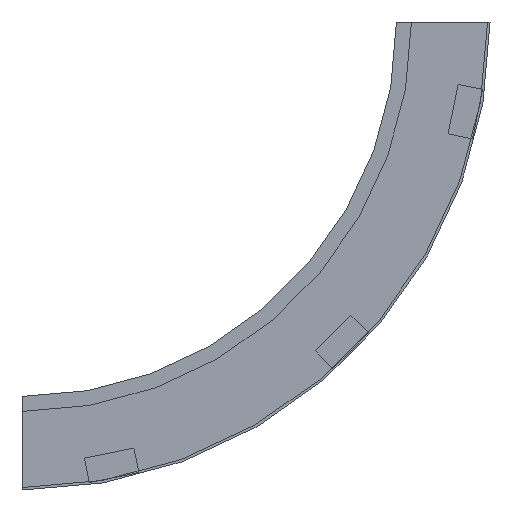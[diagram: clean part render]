
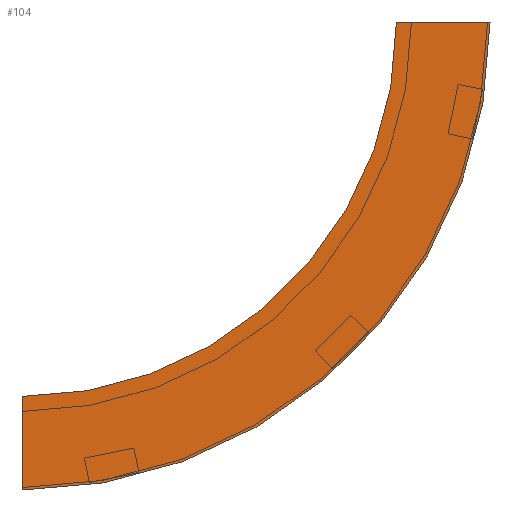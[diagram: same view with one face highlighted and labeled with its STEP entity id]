
A CAD part, left-side view. The second image highlights one B-rep face of the part: STEP entity #104.
In plain terms, the highlighted planar face has unit normal (-1, 0, 0) as drawn and (1, 0, 0) by its records, which use the part's own axes.
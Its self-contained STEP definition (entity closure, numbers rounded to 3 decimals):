
#8 = DIRECTION ( 'NONE',  ( 1., 0., 0. ) ) ;
#11 = VERTEX_POINT ( 'NONE', #85 ) ;
#12 = DIRECTION ( 'NONE',  ( 1., 0., 0. ) ) ;
#54 = EDGE_CURVE ( 'NONE', #139, #213, #129, .T. ) ;
#62 = DIRECTION ( 'NONE',  ( 0., 1., 0. ) ) ;
#74 = EDGE_LOOP ( 'NONE', ( #244, #382, #135, #476 ) ) ;
#85 = CARTESIAN_POINT ( 'NONE',  ( 0., -75., 0. ) ) ;
#88 = DIRECTION ( 'NONE',  ( 0., 0., 1. ) ) ;
#102 = CARTESIAN_POINT ( 'NONE',  ( 0., 300., -375. ) ) ;
#104 = ADVANCED_FACE ( 'NONE', ( #283 ), #189, .F. ) ;
#129 = LINE ( 'NONE', #533, #373 ) ;
#135 = ORIENTED_EDGE ( 'NONE', *, *, #347, .T. ) ;
#139 = VERTEX_POINT ( 'NONE', #102 ) ;
#141 = CARTESIAN_POINT ( 'NONE',  ( 0., 300., -300. ) ) ;
#146 = CIRCLE ( 'NONE', #470, 300. ) ;
#159 = CARTESIAN_POINT ( 'NONE',  ( 0., 0., 0. ) ) ;
#168 = EDGE_CURVE ( 'NONE', #345, #213, #146, .T. ) ;
#189 = PLANE ( 'NONE',  #444 ) ;
#213 = VERTEX_POINT ( 'NONE', #141 ) ;
#244 = ORIENTED_EDGE ( 'NONE', *, *, #168, .F. ) ;
#248 = CARTESIAN_POINT ( 'NONE',  ( 0., 300., 0. ) ) ;
#283 = FACE_OUTER_BOUND ( 'NONE', #74, .T. ) ;
#292 = LINE ( 'NONE', #466, #570 ) ;
#320 = DIRECTION ( 'NONE',  ( 0., 0., 1. ) ) ;
#345 = VERTEX_POINT ( 'NONE', #159 ) ;
#347 = EDGE_CURVE ( 'NONE', #11, #139, #572, .T. ) ;
#371 = DIRECTION ( 'NONE',  ( 0., -1., 0. ) ) ;
#373 = VECTOR ( 'NONE', #88, 1000. ) ;
#376 = EDGE_CURVE ( 'NONE', #11, #345, #292, .T. ) ;
#381 = DIRECTION ( 'NONE',  ( 0., -1., 0. ) ) ;
#382 = ORIENTED_EDGE ( 'NONE', *, *, #376, .F. ) ;
#411 = CARTESIAN_POINT ( 'NONE',  ( 0., 300., 0. ) ) ;
#444 = AXIS2_PLACEMENT_3D ( 'NONE', #539, #455, #320 ) ;
#455 = DIRECTION ( 'NONE',  ( -1., 0., 0. ) ) ;
#466 = CARTESIAN_POINT ( 'NONE',  ( 0., -75., 0. ) ) ;
#470 = AXIS2_PLACEMENT_3D ( 'NONE', #248, #8, #371 ) ;
#476 = ORIENTED_EDGE ( 'NONE', *, *, #54, .T. ) ;
#488 = AXIS2_PLACEMENT_3D ( 'NONE', #411, #12, #381 ) ;
#533 = CARTESIAN_POINT ( 'NONE',  ( 0., 300., -375. ) ) ;
#539 = CARTESIAN_POINT ( 'NONE',  ( 0., -75., 0. ) ) ;
#570 = VECTOR ( 'NONE', #62, 1000. ) ;
#572 = CIRCLE ( 'NONE', #488, 375. ) ;
